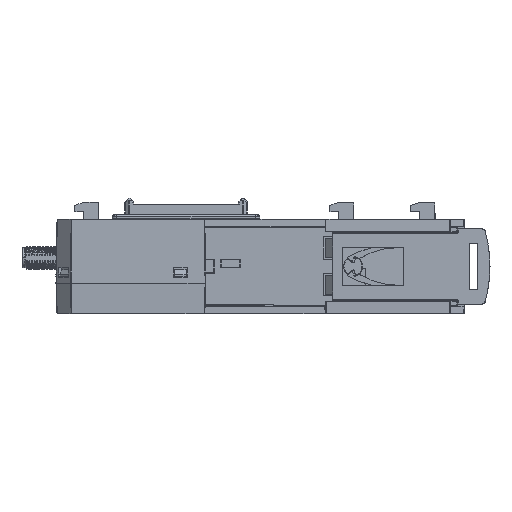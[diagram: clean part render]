
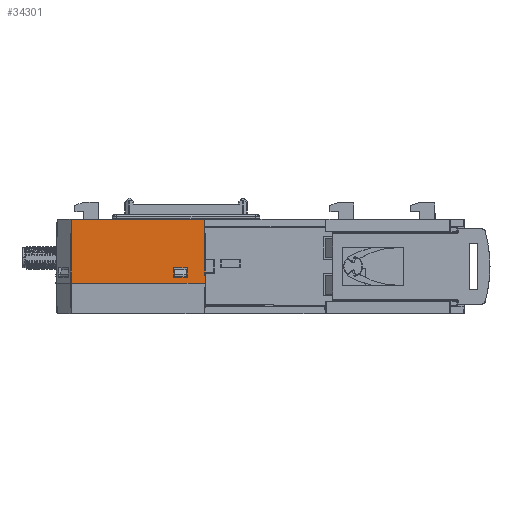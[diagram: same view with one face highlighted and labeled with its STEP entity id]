
A CAD part, front view. The second image highlights one B-rep face of the part: STEP entity #34301.
In plain terms, the highlighted planar face has unit normal (0, -1, 0.018).
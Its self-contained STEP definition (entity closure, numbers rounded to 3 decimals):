
#1508 = CARTESIAN_POINT ( 'NONE',  ( -138.802, -38.744, 12.4 ) ) ;
#4402 = CARTESIAN_POINT ( 'NONE',  ( -138.802, -38.817, 8.2 ) ) ;
#9938 = CARTESIAN_POINT ( 'NONE',  ( -158.502, -38.789, 9.8 ) ) ;
#14127 = LINE ( 'NONE', #144907, #41120 ) ;
#23091 = PLANE ( 'NONE',  #83709 ) ;
#23697 = CARTESIAN_POINT ( 'NONE',  ( -162.202, -38.789, 9.8 ) ) ;
#24144 = DIRECTION ( 'NONE',  ( 0., -1., 0.017 ) ) ;
#24154 = VERTEX_POINT ( 'NONE', #23697 ) ;
#25951 = CARTESIAN_POINT ( 'NONE',  ( -189.719, -38.817, 8.2 ) ) ;
#26697 = ORIENTED_EDGE ( 'NONE', *, *, #181710, .T. ) ;
#30306 = DIRECTION ( 'NONE',  ( -0.007, -0.017, -1. ) ) ;
#31365 = LINE ( 'NONE', #78582, #191754 ) ;
#32681 = ORIENTED_EDGE ( 'NONE', *, *, #189306, .F. ) ;
#33940 = ORIENTED_EDGE ( 'NONE', *, *, #165090, .T. ) ;
#34301 = ADVANCED_FACE ( 'NONE', ( #185965, #39211 ), #23091, .T. ) ;
#35474 = DIRECTION ( 'NONE',  ( -1., 0., 0. ) ) ;
#37350 = CARTESIAN_POINT ( 'NONE',  ( -162.202, -38.744, 12.4 ) ) ;
#39117 = EDGE_CURVE ( 'NONE', #24154, #139835, #161829, .T. ) ;
#39211 = FACE_OUTER_BOUND ( 'NONE', #43519, .T. ) ;
#39624 = EDGE_LOOP ( 'NONE', ( #164227, #182455, #32681, #176162 ) ) ;
#41120 = VECTOR ( 'NONE', #211190, 1000. ) ;
#42137 = ORIENTED_EDGE ( 'NONE', *, *, #158613, .F. ) ;
#43519 = EDGE_LOOP ( 'NONE', ( #42137, #33940, #26697, #117380 ) ) ;
#49237 = CARTESIAN_POINT ( 'NONE',  ( -138.802, -38.789, 9.8 ) ) ;
#56589 = VERTEX_POINT ( 'NONE', #68062 ) ;
#61749 = VERTEX_POINT ( 'NONE', #205686 ) ;
#65869 = VERTEX_POINT ( 'NONE', #25951 ) ;
#68062 = CARTESIAN_POINT ( 'NONE',  ( -153.701, -38.817, 8.2 ) ) ;
#78582 = CARTESIAN_POINT ( 'NONE',  ( -189.716, -38.811, 8.568 ) ) ;
#83709 = AXIS2_PLACEMENT_3D ( 'NONE', #206256, #24144, #156040 ) ;
#90261 = EDGE_CURVE ( 'NONE', #138228, #203382, #182530, .T. ) ;
#91788 = VECTOR ( 'NONE', #104882, 1000. ) ;
#104882 = DIRECTION ( 'NONE',  ( -1., 0., 0. ) ) ;
#108399 = VECTOR ( 'NONE', #35474, 1000. ) ;
#113563 = VECTOR ( 'NONE', #196461, 1000. ) ;
#116469 = LINE ( 'NONE', #162600, #184174 ) ;
#117380 = ORIENTED_EDGE ( 'NONE', *, *, #190366, .T. ) ;
#121159 = LINE ( 'NONE', #4402, #108399 ) ;
#124431 = VERTEX_POINT ( 'NONE', #209075 ) ;
#132252 = DIRECTION ( 'NONE',  ( -1., 0., 0. ) ) ;
#134907 = LINE ( 'NONE', #186250, #91788 ) ;
#138228 = VERTEX_POINT ( 'NONE', #174362 ) ;
#139835 = VERTEX_POINT ( 'NONE', #9938 ) ;
#144907 = CARTESIAN_POINT ( 'NONE',  ( -162.202, -38.817, 8.2 ) ) ;
#156040 = DIRECTION ( 'NONE',  ( 0., 0.017, 1. ) ) ;
#158613 = EDGE_CURVE ( 'NONE', #56589, #65869, #121159, .T. ) ;
#161829 = LINE ( 'NONE', #49237, #210434 ) ;
#162600 = CARTESIAN_POINT ( 'NONE',  ( -154.002, -38.517, 25.397 ) ) ;
#164227 = ORIENTED_EDGE ( 'NONE', *, *, #202107, .F. ) ;
#165090 = EDGE_CURVE ( 'NONE', #56589, #124431, #116469, .T. ) ;
#174362 = CARTESIAN_POINT ( 'NONE',  ( -158.502, -38.744, 12.4 ) ) ;
#176162 = ORIENTED_EDGE ( 'NONE', *, *, #90261, .F. ) ;
#181710 = EDGE_CURVE ( 'NONE', #124431, #61749, #134907, .T. ) ;
#182455 = ORIENTED_EDGE ( 'NONE', *, *, #39117, .F. ) ;
#182530 = LINE ( 'NONE', #1508, #202402 ) ;
#182833 = DIRECTION ( 'NONE',  ( -0.017, 0.017, 1. ) ) ;
#184174 = VECTOR ( 'NONE', #182833, 1000. ) ;
#185965 = FACE_BOUND ( 'NONE', #39624, .T. ) ;
#186250 = CARTESIAN_POINT ( 'NONE',  ( -138.802, -38.517, 25.4 ) ) ;
#189306 = EDGE_CURVE ( 'NONE', #203382, #24154, #14127, .T. ) ;
#190366 = EDGE_CURVE ( 'NONE', #61749, #65869, #31365, .T. ) ;
#191754 = VECTOR ( 'NONE', #30306, 1000. ) ;
#192520 = CARTESIAN_POINT ( 'NONE',  ( -158.502, -38.817, 8.2 ) ) ;
#196461 = DIRECTION ( 'NONE',  ( 0., 0.017, 1. ) ) ;
#202107 = EDGE_CURVE ( 'NONE', #139835, #138228, #206488, .T. ) ;
#202402 = VECTOR ( 'NONE', #132252, 1000. ) ;
#203382 = VERTEX_POINT ( 'NONE', #37350 ) ;
#205686 = CARTESIAN_POINT ( 'NONE',  ( -189.594, -38.517, 25.4 ) ) ;
#206256 = CARTESIAN_POINT ( 'NONE',  ( -138.802, -38.817, 8.2 ) ) ;
#206488 = LINE ( 'NONE', #192520, #113563 ) ;
#209075 = CARTESIAN_POINT ( 'NONE',  ( -154.002, -38.517, 25.4 ) ) ;
#210434 = VECTOR ( 'NONE', #211007, 1000. ) ;
#211007 = DIRECTION ( 'NONE',  ( 1., 0., 0. ) ) ;
#211190 = DIRECTION ( 'NONE',  ( 0., -0.017, -1. ) ) ;
